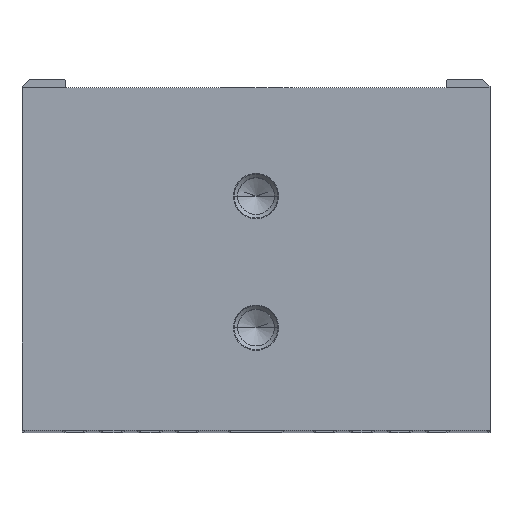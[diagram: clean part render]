
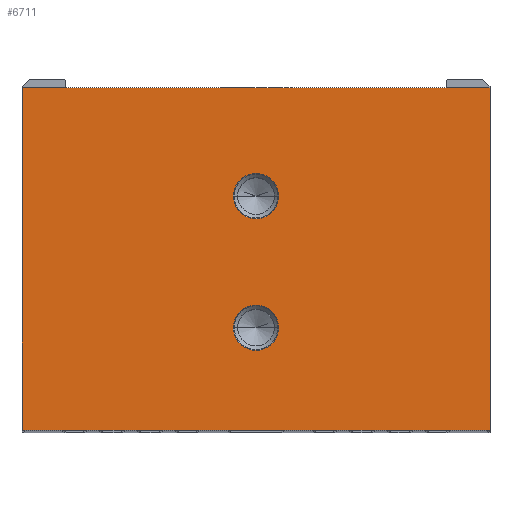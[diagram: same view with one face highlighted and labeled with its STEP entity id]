
A CAD part, top view. The second image highlights one B-rep face of the part: STEP entity #6711.
In plain terms, the highlighted planar face has unit normal (0, 0, 1).
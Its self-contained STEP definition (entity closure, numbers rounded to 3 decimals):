
#1380=DIRECTION('',(0.,-1.,0.));
#1381=VECTOR('',#1380,23.4);
#1382=CARTESIAN_POINT('',(-16.,11.402,55.5));
#1383=LINE('',#1382,#1381);
#1384=DIRECTION('',(-1.,0.,0.));
#1385=VECTOR('',#1384,32.);
#1386=CARTESIAN_POINT('',(16.,11.402,55.5));
#1387=LINE('',#1386,#1385);
#1388=DIRECTION('',(0.,1.,0.));
#1389=VECTOR('',#1388,23.4);
#1390=CARTESIAN_POINT('',(16.,-11.998,55.5));
#1391=LINE('',#1390,#1389);
#1392=DIRECTION('',(1.,0.,0.));
#1393=VECTOR('',#1392,32.);
#1394=CARTESIAN_POINT('',(-16.,-11.998,55.5));
#1395=LINE('',#1394,#1393);
#1396=CARTESIAN_POINT('',(0.,4.002,
55.5));
#1397=DIRECTION('',(0.,0.,-1.));
#1398=DIRECTION('',(1.,0.,0.));
#1399=AXIS2_PLACEMENT_3D('',#1396,#1397,#1398);
#1401=CARTESIAN_POINT('',(0.,4.002,55.5));
#1402=DIRECTION('',(0.,0.,-1.));
#1403=DIRECTION('',(-1.,0.,0.));
#1404=AXIS2_PLACEMENT_3D('',#1401,#1402,#1403);
#1406=CARTESIAN_POINT('',(0.,-4.998,
55.5));
#1407=DIRECTION('',(0.,0.,-1.));
#1408=DIRECTION('',(1.,0.,0.));
#1409=AXIS2_PLACEMENT_3D('',#1406,#1407,#1408);
#1411=CARTESIAN_POINT('',(0.,-4.998,
55.5));
#1412=DIRECTION('',(0.,0.,-1.));
#1413=DIRECTION('',(-1.,0.,0.));
#1414=AXIS2_PLACEMENT_3D('',#1411,#1412,#1413);
#3146=CARTESIAN_POINT('',(-16.,11.402,55.5));
#3147=CARTESIAN_POINT('',(-16.,-11.998,55.5));
#3148=VERTEX_POINT('',#3146);
#3149=VERTEX_POINT('',#3147);
#3150=CARTESIAN_POINT('',(16.,-11.998,55.5));
#3151=VERTEX_POINT('',#3150);
#3152=CARTESIAN_POINT('',(16.,11.402,55.5));
#3153=VERTEX_POINT('',#3152);
#4082=CARTESIAN_POINT('',(1.55,4.002,55.5));
#4083=CARTESIAN_POINT('',(-1.55,4.002,55.5));
#4084=VERTEX_POINT('',#4082);
#4085=VERTEX_POINT('',#4083);
#4090=CARTESIAN_POINT('',(1.55,-4.998,55.5));
#4091=CARTESIAN_POINT('',(-1.55,-4.998,
55.5));
#4092=VERTEX_POINT('',#4090);
#4093=VERTEX_POINT('',#4091);
#6688=CARTESIAN_POINT('',(0.,0.,55.5));
#6689=DIRECTION('',(0.,0.,1.));
#6690=DIRECTION('',(1.,0.,0.));
#6691=AXIS2_PLACEMENT_3D('',#6688,#6689,#6690);
#6692=PLANE('',#6691);
#6693=ORIENTED_EDGE('',*,*,#4282,.F.);
#6694=ORIENTED_EDGE('',*,*,#4187,.F.);
#6695=ORIENTED_EDGE('',*,*,#5040,.F.);
#6696=ORIENTED_EDGE('',*,*,#6413,.F.);
#6697=EDGE_LOOP('',(#6693,#6694,#6695,#6696));
#6698=FACE_OUTER_BOUND('',#6697,.F.);
#6700=ORIENTED_EDGE('',*,*,#6699,.F.);
#6702=ORIENTED_EDGE('',*,*,#6701,.F.);
#6703=EDGE_LOOP('',(#6700,#6702));
#6704=FACE_BOUND('',#6703,.F.);
#6706=ORIENTED_EDGE('',*,*,#6705,.F.);
#6708=ORIENTED_EDGE('',*,*,#6707,.F.);
#6709=EDGE_LOOP('',(#6706,#6708));
#6710=FACE_BOUND('',#6709,.F.);
#1400=CIRCLE('',#1399,1.55);
#1405=CIRCLE('',#1404,1.55);
#1410=CIRCLE('',#1409,1.55);
#1415=CIRCLE('',#1414,1.55);
#4187=EDGE_CURVE('',#3153,#3148,#1387,.T.);
#4282=EDGE_CURVE('',#3148,#3149,#1383,.T.);
#5040=EDGE_CURVE('',#3151,#3153,#1391,.T.);
#6413=EDGE_CURVE('',#3149,#3151,#1395,.T.);
#6699=EDGE_CURVE('',#4084,#4085,#1400,.T.);
#6701=EDGE_CURVE('',#4085,#4084,#1405,.T.);
#6705=EDGE_CURVE('',#4092,#4093,#1410,.T.);
#6707=EDGE_CURVE('',#4093,#4092,#1415,.T.);
#6711=ADVANCED_FACE('',(#6698,#6704,#6710),#6692,.T.);
